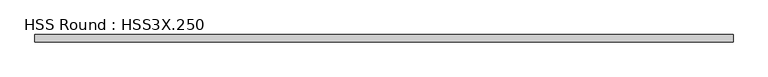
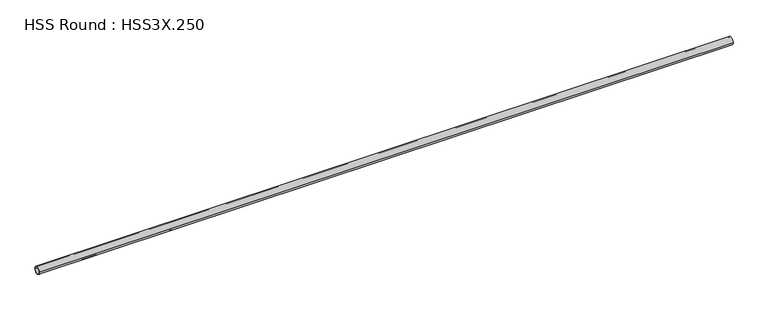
"""IFC4 building model written with IfcOpenShell, lengths in millimetres: member geometry, HSS Round : HSS3X.250."""

from ifc_helpers import new_model, si_unit, point, frame, origin, origin_2d, place, context, project, spatial, circle_curve, trimmed, segment, composite_curve, outline, extrude, source, transform, mapped, element, save


def hss_round_hss3x_250_d90fe34d(model_context):
    return source(origin(), model_context, "Body", "SweptSolid", [
        extrude(outline(composite_curve([segment(trimmed(circle_curve(origin_2d(), 38.1), [point((-38.1, 0.0))], [point((38.1, 0.0))], False, "CARTESIAN"), True, "CONTINUOUS"), segment(trimmed(circle_curve(origin_2d(), 38.1), [point((38.1, 0.0))], [point((-38.1, 0.0))], False, "CARTESIAN"), True, "CONTINUOUS")], self_intersect=False), holes=[composite_curve([segment(trimmed(circle_curve(origin_2d(), 31.75), [point((31.75, 0.0))], [point((-31.75, 0.0))], True, "CARTESIAN"), True, "CONTINUOUS"), segment(trimmed(circle_curve(origin_2d(), 31.75), [point((-31.75, 0.0))], [point((31.75, 0.0))], True, "CARTESIAN"), True, "CONTINUOUS")], self_intersect=False)]), frame((-3580.9822826, 0.0, 0.0), z_axis=(1.0, 0.0, 0.0), x_axis=(0.0, 1.0, 0.0)), (0.0, 0.0, 1.0), 7135.8640915),
    ])


if __name__ == "__main__":
    model = new_model("IFC4")
    model_context = context("Model", 3, world=origin())
    ifc_project = project(units=[si_unit("LENGTHUNIT", "METRE", prefix="MILLI")], contexts=[model_context])
    site = spatial("IfcSite", under=ifc_project)
    building = spatial("IfcBuilding", under=site)
    placement = place(None, origin())
    hss_round_hss3x_250_shape = hss_round_hss3x_250_d90fe34d(model_context)
    element("IfcMember", 1, ObjectType="HSS Round : HSS3X.250", at=placement, inside=building, context=model_context, shape_type="MappedRepresentation", body=[
        mapped(hss_round_hss3x_250_shape, transform((0.0, 0.0, 0.0), x_axis=(1.0, 0.0, 0.0), y_axis=(0.0, 1.0, 0.0), z_axis=(0.0, 0.0, 1.0))),
    ])
    save(model, "model.ifc")
